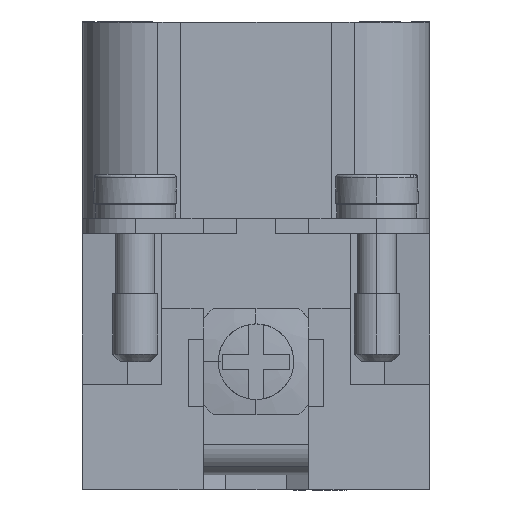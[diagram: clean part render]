
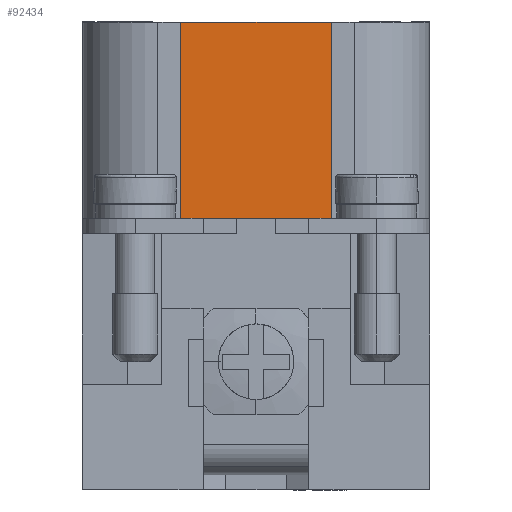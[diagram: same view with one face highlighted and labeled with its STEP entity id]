
A CAD part, left-side view. The second image highlights one B-rep face of the part: STEP entity #92434.
In plain terms, the highlighted planar face has unit normal (-1, 0, 0).
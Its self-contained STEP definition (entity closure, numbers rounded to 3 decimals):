
#92434 = ADVANCED_FACE ( 'NONE', ( #115836 ), #115918, .T. ) ;
#92435 = EDGE_LOOP ( 'NONE', ( #92438, #92444, #92450, #92456 ) ) ;
#92438 = ORIENTED_EDGE ( 'NONE', *, *, #92439, .T. ) ;
#92439 = EDGE_CURVE ( 'NONE', #92441, #92442, #115867, .T. ) ;
#92441 = VERTEX_POINT ( 'NONE', #115969 ) ;
#92442 = VERTEX_POINT ( 'NONE', #115968 ) ;
#92444 = ORIENTED_EDGE ( 'NONE', *, *, #92446, .T. ) ;
#92446 = EDGE_CURVE ( 'NONE', #92442, #92448, #116049, .T. ) ;
#92448 = VERTEX_POINT ( 'NONE', #116044 ) ;
#92450 = ORIENTED_EDGE ( 'NONE', *, *, #92452, .T. ) ;
#92452 = EDGE_CURVE ( 'NONE', #92448, #92454, #116160, .T. ) ;
#92454 = VERTEX_POINT ( 'NONE', #116150 ) ;
#92456 = ORIENTED_EDGE ( 'NONE', *, *, #92458, .T. ) ;
#92458 = EDGE_CURVE ( 'NONE', #92454, #92441, #116147, .T. ) ;
#115836 = FACE_OUTER_BOUND ( 'NONE', #92435, .T. ) ;
#115864 = VECTOR ( 'NONE', #115971, 1000. ) ;
#115865 = CARTESIAN_POINT ( 'NONE',  ( -36., -5., 0. ) ) ;
#115867 = LINE ( 'NONE', #115865, #115864 ) ;
#115912 = DIRECTION ( 'NONE',  ( 0., 0., 1. ) ) ;
#115913 = DIRECTION ( 'NONE',  ( -1., 0., 0. ) ) ;
#115914 = CARTESIAN_POINT ( 'NONE',  ( -36., -5., 0. ) ) ;
#115916 = AXIS2_PLACEMENT_3D ( 'NONE', #115914, #115913, #115912 ) ;
#115918 = PLANE ( 'NONE',  #115916 ) ;
#115968 = CARTESIAN_POINT ( 'NONE',  ( -36., -5., 0. ) ) ;
#115969 = CARTESIAN_POINT ( 'NONE',  ( -36., 5., 0. ) ) ;
#115971 = DIRECTION ( 'NONE',  ( 0., -1., 0. ) ) ;
#116044 = CARTESIAN_POINT ( 'NONE',  ( -36., -5., 13. ) ) ;
#116045 = DIRECTION ( 'NONE',  ( 0., 0., 1. ) ) ;
#116047 = VECTOR ( 'NONE', #116045, 1000. ) ;
#116048 = CARTESIAN_POINT ( 'NONE',  ( -36., -5., 0. ) ) ;
#116049 = LINE ( 'NONE', #116048, #116047 ) ;
#116143 = DIRECTION ( 'NONE',  ( 0., 0., -1. ) ) ;
#116144 = VECTOR ( 'NONE', #116143, 1000. ) ;
#116145 = CARTESIAN_POINT ( 'NONE',  ( -36., 5., 0. ) ) ;
#116147 = LINE ( 'NONE', #116145, #116144 ) ;
#116150 = CARTESIAN_POINT ( 'NONE',  ( -36., 5., 13. ) ) ;
#116155 = DIRECTION ( 'NONE',  ( 0., 1., 0. ) ) ;
#116157 = VECTOR ( 'NONE', #116155, 1000. ) ;
#116158 = CARTESIAN_POINT ( 'NONE',  ( -36., -5., 13. ) ) ;
#116160 = LINE ( 'NONE', #116158, #116157 ) ;
